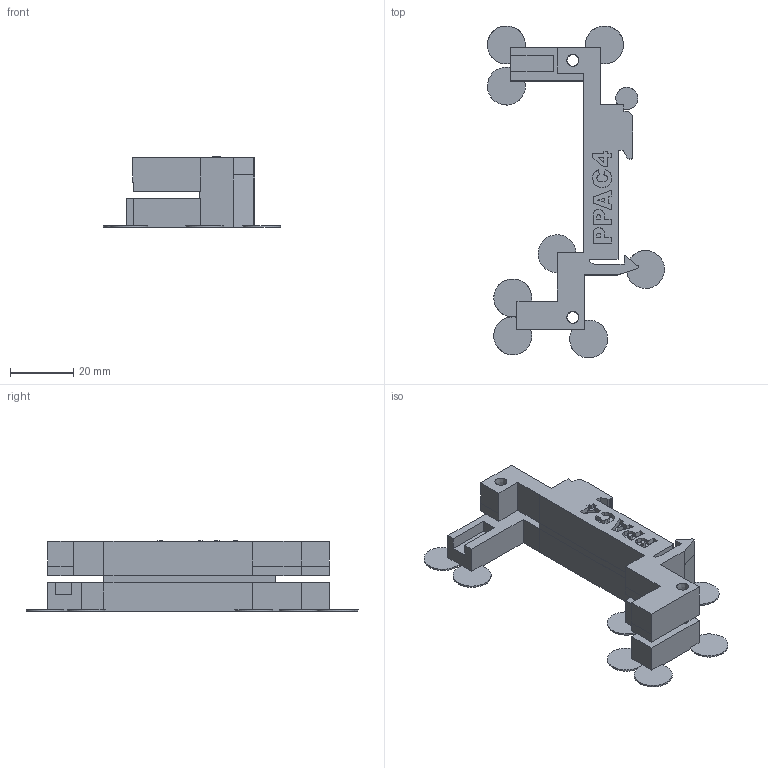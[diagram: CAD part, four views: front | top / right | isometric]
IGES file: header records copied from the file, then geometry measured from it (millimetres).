
Global section: file name: din Rail PPAC4 v12; native system: unknown; preprocessor: unknown; author: unknown; organization: unknown; date: 20170506.164558; units: millimetre
Bounding box: 56 x 104.99 x 22.4 mm (x, y, z)
Volume: 25402.9 mm3; surface area: 13006.3 mm2
Topology: 1 solids, 1 shells, 238 faces, 671 edges, 443 vertices
Faces by surface type: bspline 238
